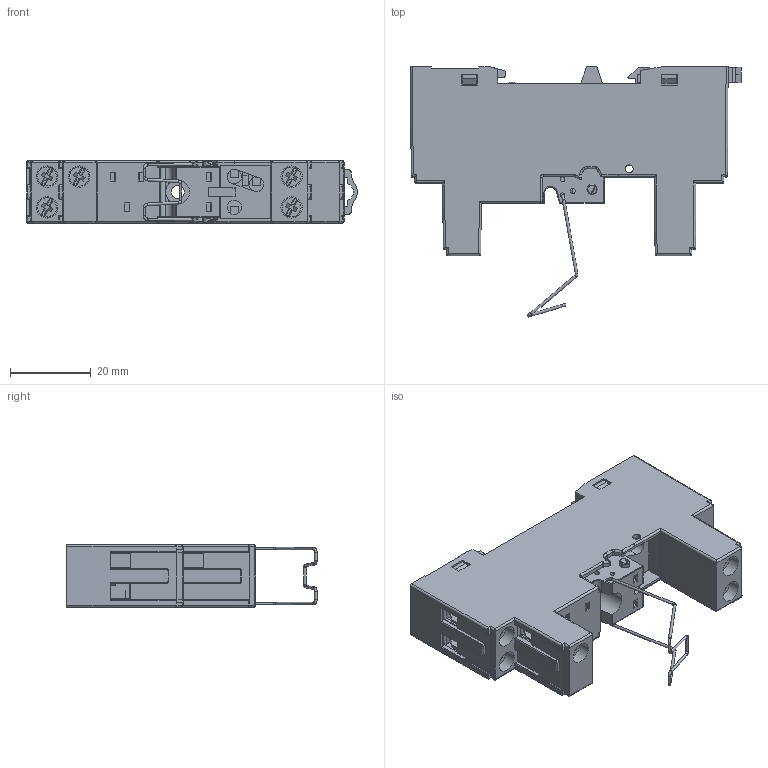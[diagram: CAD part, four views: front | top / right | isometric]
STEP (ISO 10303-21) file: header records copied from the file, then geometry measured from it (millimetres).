
FILE_DESCRIPTION(/* description */ ('Unknown'),/* implementation_level */ '2;1');
FILE_NAME(/* name */ '95833_with_09571',/* time_stamp */ '2021-04-07T15:06:17+02:00',/* author */ ('Unknown'),/* organization */ ('Unknown'),/* preprocessor_version */ 'ST-DEVELOPER v16.7',/* originating_system */ 'DEX',/* authorisation */ $);
FILE_SCHEMA (('AUTOMOTIVE_DESIGN {1 0 10303 214 3 1 1}'));
Length unit declared in the file: millimetre
Products named in the file (3): 95833_with_09571; 95833; 09571
Assembly tree (2 placements, depth 2):
  95833_with_09571
    95833
    09571
Bounding box: 82.09 x 62.05 x 15.5 mm (x, y, z)
Surface area: 27376.9 mm2 (no closed solid volume)
Topology: 0 solids, 29 shells, 806 faces, 2790 edges, 1909 vertices
Faces by surface type: plane 491, cylinder 231, bspline 57, sphere 19, torus 8
Full cylindrical faces by diameter (mm): 0.65 x13
Entity records: 37500 total; most frequent: CARTESIAN_POINT 10720, ORIENTED_EDGE 4531, DIRECTION 4097, EDGE_CURVE 2723, LINE 2017, VECTOR 2017, VERTEX_POINT 1905, AXIS2_PLACEMENT_3D 1040
